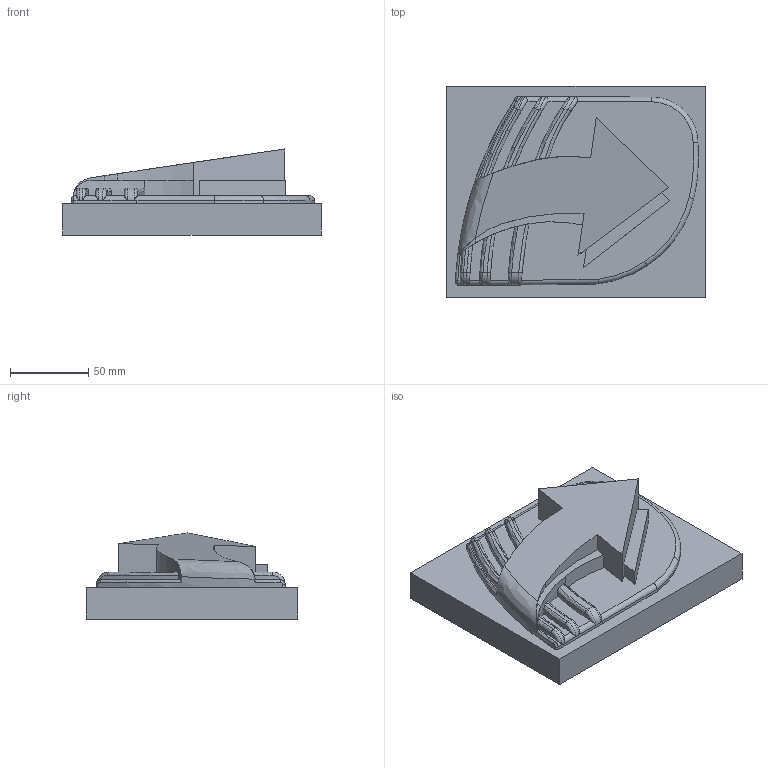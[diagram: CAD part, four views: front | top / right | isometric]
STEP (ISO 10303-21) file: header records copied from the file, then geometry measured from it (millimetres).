
FILE_DESCRIPTION((''),'2;1');
FILE_NAME('C:\Users\User\Desktop\Mastercam-harjoitukset\Mastercam_Mill3D_2.stp','2020-03-25T14:05:38',(''),(''),'STEP Write','Mastercam 2020 ... CNC Software, Inc.','');
FILE_SCHEMA(('AUTOMOTIVE_DESIGN'));
Length unit declared in the file: millimetre
Products named in the file (1): None
Bounding box: 165 x 135 x 55 mm (x, y, z)
Volume: 640629.3 mm3; surface area: 68106.8 mm2
Topology: 1 solids, 1 shells, 108 faces, 278 edges, 173 vertices
Faces by surface type: cylinder 42, plane 32, torus 19, bspline 15
Entity records: 6165 total; most frequent: CARTESIAN_POINT 3538, ORIENTED_EDGE 556, DIRECTION 480, EDGE_CURVE 278, AXIS2_PLACEMENT_3D 190, VERTEX_POINT 173, STYLED_ITEM 110, EDGE_LOOP 109
